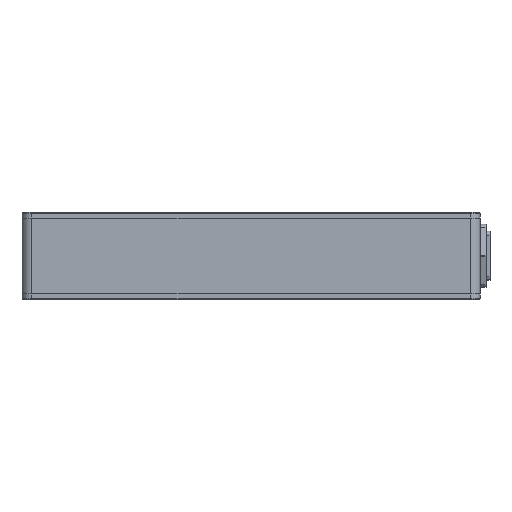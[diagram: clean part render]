
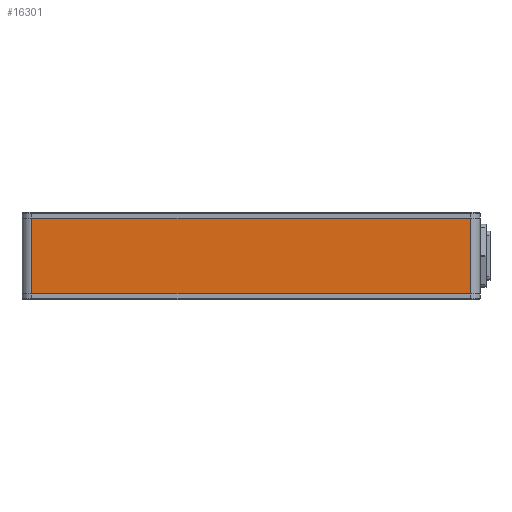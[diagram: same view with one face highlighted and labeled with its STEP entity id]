
A CAD part, front view. The second image highlights one B-rep face of the part: STEP entity #16301.
In plain terms, the highlighted planar face has unit normal (0, -1, 0).
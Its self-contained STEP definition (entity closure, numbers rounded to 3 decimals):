
#210 = CARTESIAN_POINT ( 'NONE',  ( 2075.652, 246.632, 0. ) ) ;
#4738 = VECTOR ( 'NONE', #12111, 1000. ) ;
#5204 = EDGE_CURVE ( 'NONE', #22428, #11769, #26955, .T. ) ;
#5490 = CARTESIAN_POINT ( 'NONE',  ( 1965.652, 246.632, 38. ) ) ;
#7274 = CARTESIAN_POINT ( 'NONE',  ( 2075.652, 246.632, 38. ) ) ;
#9605 = CARTESIAN_POINT ( 'NONE',  ( 2075.652, 246.632, 38. ) ) ;
#9859 = CARTESIAN_POINT ( 'NONE',  ( 1855.652, 246.632, 38. ) ) ;
#10707 = ORIENTED_EDGE ( 'NONE', *, *, #11268, .F. ) ;
#10905 = CARTESIAN_POINT ( 'NONE',  ( 1855.652, 246.632, 38. ) ) ;
#11268 = EDGE_CURVE ( 'NONE', #22428, #21330, #25447, .T. ) ;
#11769 = VERTEX_POINT ( 'NONE', #17135 ) ;
#12111 = DIRECTION ( 'NONE',  ( 1., 0., 0. ) ) ;
#12559 = ORIENTED_EDGE ( 'NONE', *, *, #13744, .T. ) ;
#13744 = EDGE_CURVE ( 'NONE', #11769, #33014, #22380, .T. ) ;
#15249 = VECTOR ( 'NONE', #28829, 1000. ) ;
#16301 = ADVANCED_FACE ( 'NONE', ( #18668 ), #20898, .F. ) ;
#16586 = VECTOR ( 'NONE', #32864, 1000. ) ;
#17135 = CARTESIAN_POINT ( 'NONE',  ( 1855.652, 246.632, 0. ) ) ;
#17395 = ORIENTED_EDGE ( 'NONE', *, *, #18759, .F. ) ;
#18668 = FACE_OUTER_BOUND ( 'NONE', #31011, .T. ) ;
#18759 = EDGE_CURVE ( 'NONE', #21330, #33014, #30472, .T. ) ;
#18938 = VECTOR ( 'NONE', #30740, 1000. ) ;
#19276 = ORIENTED_EDGE ( 'NONE', *, *, #5204, .T. ) ;
#20898 = PLANE ( 'NONE',  #33409 ) ;
#21060 = DIRECTION ( 'NONE',  ( 0., 0., 1. ) ) ;
#21330 = VERTEX_POINT ( 'NONE', #7274 ) ;
#22380 = LINE ( 'NONE', #33304, #4738 ) ;
#22428 = VERTEX_POINT ( 'NONE', #10905 ) ;
#25447 = LINE ( 'NONE', #9859, #18938 ) ;
#26955 = LINE ( 'NONE', #31382, #15249 ) ;
#28574 = DIRECTION ( 'NONE',  ( 0., 1., 0. ) ) ;
#28829 = DIRECTION ( 'NONE',  ( 0., 0., -1. ) ) ;
#30472 = LINE ( 'NONE', #9605, #16586 ) ;
#30740 = DIRECTION ( 'NONE',  ( 1., 0., 0. ) ) ;
#31011 = EDGE_LOOP ( 'NONE', ( #12559, #17395, #10707, #19276 ) ) ;
#31382 = CARTESIAN_POINT ( 'NONE',  ( 1855.652, 246.632, 38. ) ) ;
#32864 = DIRECTION ( 'NONE',  ( 0., 0., -1. ) ) ;
#33014 = VERTEX_POINT ( 'NONE', #210 ) ;
#33304 = CARTESIAN_POINT ( 'NONE',  ( 1965.652, 246.632, 0. ) ) ;
#33409 = AXIS2_PLACEMENT_3D ( 'NONE', #5490, #28574, #21060 ) ;
